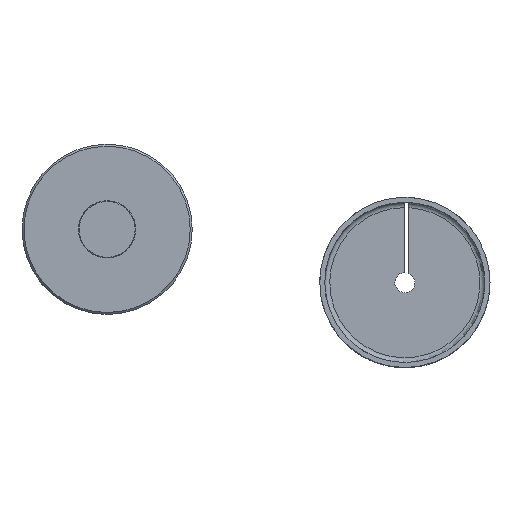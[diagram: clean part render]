
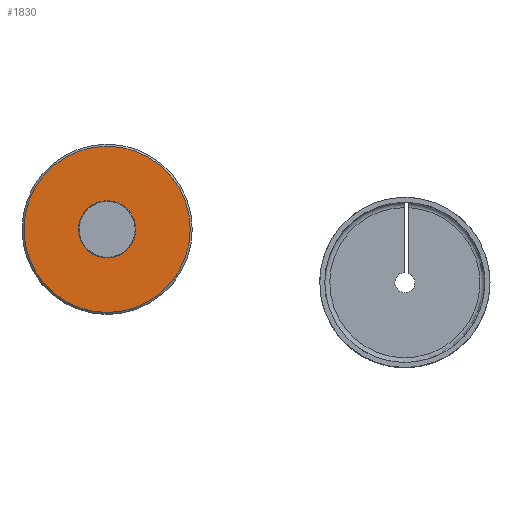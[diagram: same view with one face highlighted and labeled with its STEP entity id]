
A CAD part, top view. The second image highlights one B-rep face of the part: STEP entity #1830.
In plain terms, the highlighted planar face has unit normal (0, 0, 1).
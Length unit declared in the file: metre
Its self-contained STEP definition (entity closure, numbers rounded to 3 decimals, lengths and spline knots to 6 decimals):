
#359=PLANE('',#1957);
#452=ORIENTED_EDGE('',*,*,#985,.F.);
#453=ORIENTED_EDGE('',*,*,#986,.T.);
#985=EDGE_CURVE('',#1253,#1253,#1435,.T.);
#986=EDGE_CURVE('',#1254,#1254,#1436,.T.);
#1253=VERTEX_POINT('',#2725);
#1254=VERTEX_POINT('',#2727);
#1435=CIRCLE('',#1958,0.02);
#1436=CIRCLE('',#1959,0.083);
#1536=EDGE_LOOP('',(#452));
#1537=EDGE_LOOP('',(#453));
#1682=FACE_BOUND('',#1536,.T.);
#1683=FACE_BOUND('',#1537,.T.);
#1830=ADVANCED_FACE('',(#1682,#1683),#359,.T.);
#1957=AXIS2_PLACEMENT_3D('',#2723,#2164,#2165);
#1958=AXIS2_PLACEMENT_3D('',#2724,#2166,#2167);
#1959=AXIS2_PLACEMENT_3D('',#2726,#2168,#2169);
#2164=DIRECTION('',(0.,0.,1.));
#2165=DIRECTION('',(1.,0.,0.));
#2166=DIRECTION('',(0.,0.,1.));
#2167=DIRECTION('',(1.,0.,0.));
#2168=DIRECTION('',(0.,0.,1.));
#2169=DIRECTION('',(1.,0.,0.));
#2723=CARTESIAN_POINT('',(-0.297347,0.053239,0.008));
#2724=CARTESIAN_POINT('',(-0.297347,0.053239,0.008));
#2725=CARTESIAN_POINT('',(-0.277347,0.053239,0.008));
#2726=CARTESIAN_POINT('',(-0.297347,0.053239,0.008));
#2727=CARTESIAN_POINT('',(-0.214347,0.053239,0.008));
